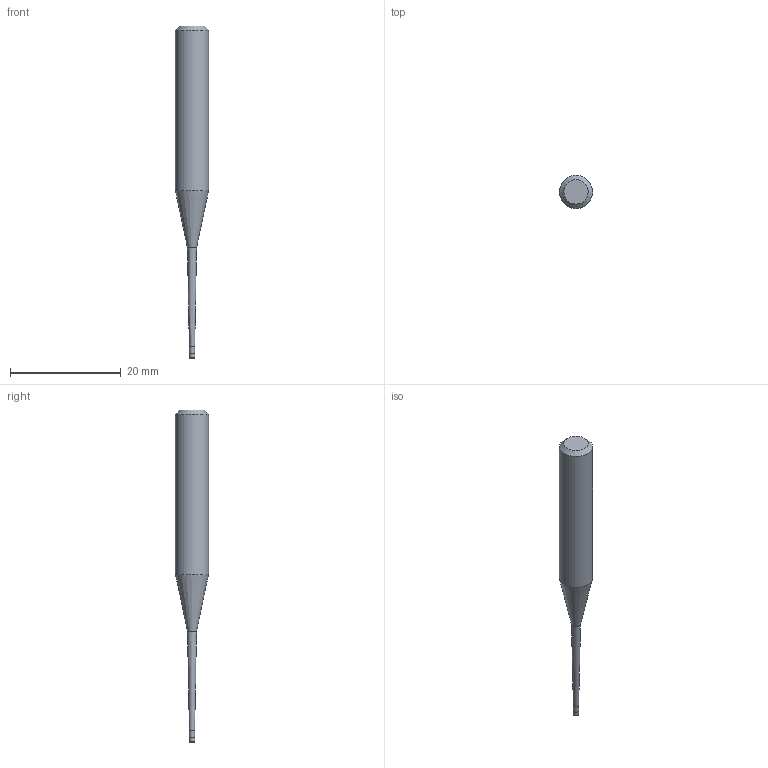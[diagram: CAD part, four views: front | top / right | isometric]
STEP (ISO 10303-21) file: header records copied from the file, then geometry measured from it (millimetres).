
FILE_DESCRIPTION((''),'2;1');
FILE_NAME('C:\Users\nsx150\AppData\Local\Temp\Mastercam 2021\YKS1SUSFZB\TEMP.step','2025-06-23T14:03:50',(''),(''),'STEP Write','Mastercam 2021 ... CNC Software, Inc.','');
FILE_SCHEMA(('AUTOMOTIVE_DESIGN'));
Length unit declared in the file: millimetre
Products named in the file (1): None
Bounding box: 6 x 6 x 60 mm (x, y, z)
Volume: 992.4 mm3; surface area: 787.3 mm2
Topology: 2 solids, 2 shells, 11 faces, 16 edges, 9 vertices
Faces by surface type: plane 4, cylinder 3, cone 3, torus 1
Full cylindrical faces by diameter (mm): 0.955 x1, 1 x1, 6 x1
Entity records: 253 total; most frequent: DIRECTION 44, CARTESIAN_POINT 31, AXIS2_PLACEMENT_3D 22, ORIENTED_EDGE 18, EDGE_LOOP 18, STYLED_ITEM 14, ADVANCED_FACE 11, FACE_BOUND 11
